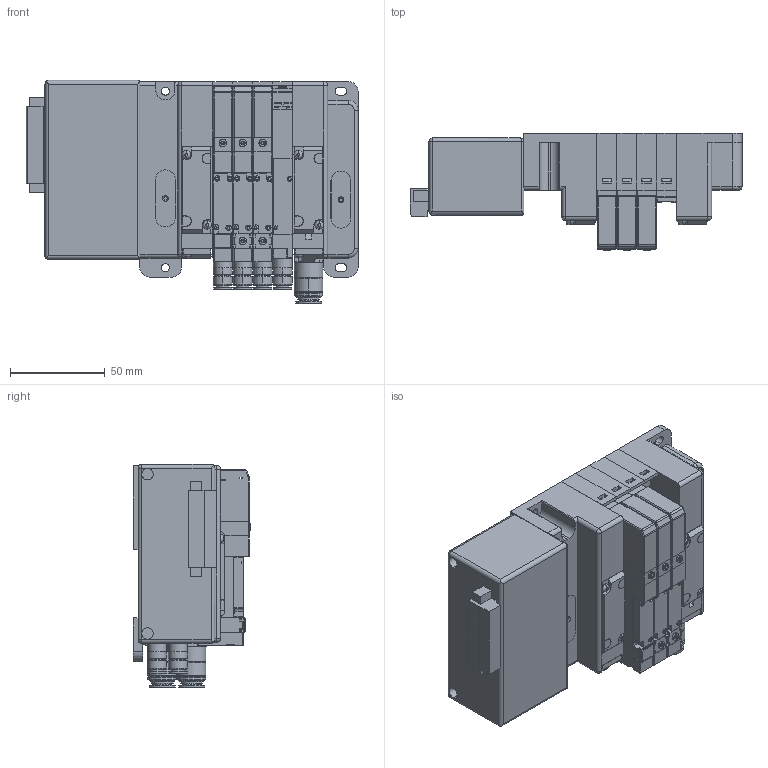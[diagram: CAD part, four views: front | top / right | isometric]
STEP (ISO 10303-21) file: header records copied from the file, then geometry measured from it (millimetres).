
FILE_DESCRIPTION( (''), '2;1');
FILE_NAME ('CVICAD02.9768.F10M4XSJ-JR-B1_10805.stp','2020-08-31T10:43:43',(''),(''),'spGate 12.6.6','','');
FILE_SCHEMA (('AUTOMOTIVE_DESIGN'));
Length unit declared in the file: millimetre
Products named in the file (18): Assembly; F10_配管LASSY_ダイレクト; キャップ_DINねじ穴用; F10-PP; F10ZX_ValveBaseAssy; F10_配管RAssy_ダイレクト; F10_Port-PJ; F10XBPP; F10_Adptor; F_3PortBody; F10_Cap; F_Connector-L; F10T_Body; F10_SwitchBlock; F10_A1; F10_VJ; F10_SwitchBlock1; YS6Bx
Assembly tree (39 placements, depth 2):
  Assembly
    F10_配管LASSY_ダイレクト
    キャップ_DINねじ穴用  x2
    F10-PP  x3
    F10ZX_ValveBaseAssy  x4
    F10_配管RAssy_ダイレクト
    F10_Port-PJ
    F10XBPP
    F10_Adptor  x3
    F_3PortBody  x3
    F10_Cap  x3
    F_Connector-L  x3
    F10T_Body  x3
    F10_SwitchBlock  x2
    F10_A1  x3
    F10_VJ  x4
    F10_SwitchBlock1
    YS6Bx
Bounding box: 175 x 62.1 x 117.7 mm (x, y, z)
Volume: 538037.2 mm3; surface area: 159306.8 mm2
Topology: 38 solids, 39 shells, 3321 faces, 8852 edges, 6170 vertices
Faces by surface type: plane 2160, cylinder 835, bspline 314, sphere 12
Entity records: 77148 total; most frequent: CARTESIAN_POINT 10945, ORIENTED_EDGE 7673, DIRECTION 6818, COLOUR_RGB 5314, PRESENTATION_STYLE_ASSIGNMENT 5314, STYLED_ITEM 5314, EDGE_CURVE 3838, DRAUGHTING_PRE_DEFINED_CURVE_FONT 3838
